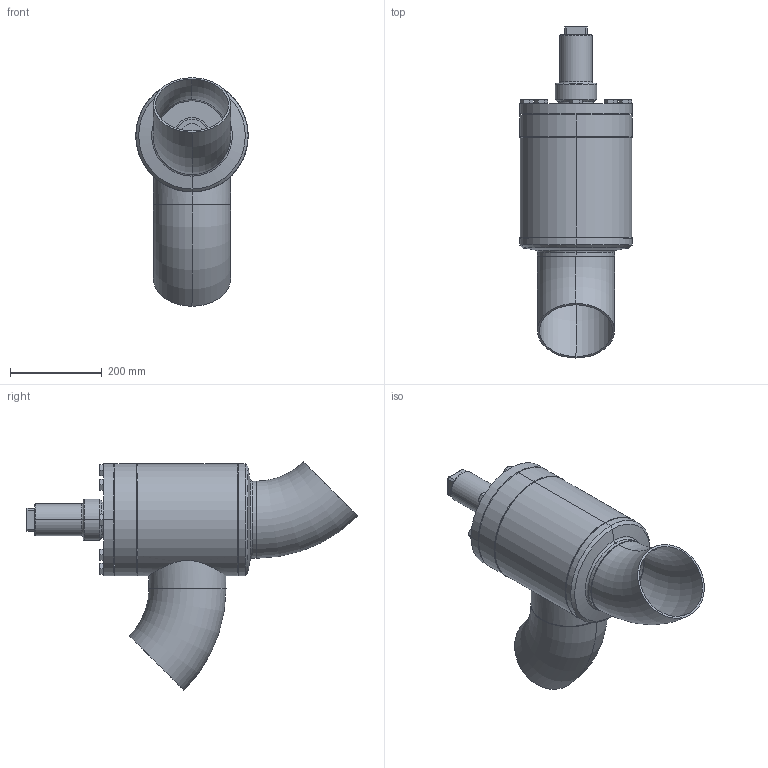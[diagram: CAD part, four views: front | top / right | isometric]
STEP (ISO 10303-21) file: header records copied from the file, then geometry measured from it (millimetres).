
FILE_DESCRIPTION (( 'STEP AP214' ), '1' );
FILE_NAME ('AVB16300D21-DN150_R1_PS40.STEP', '2006-04-27T12:18:45', ( 'Herr Grams' ), ( 'AWP GmbH' ), 'SwSTEP 2.0', 'SolidWorks 2002296', '' );
FILE_SCHEMA (( 'AUTOMOTIVE_DESIGN' ));
Length unit declared in the file: millimetre
Products named in the file (15): AVB16300D21-DN150_R1_PS40; Gehäuse-kpl16300-DN150_R1_Standard; Gehäuse16300-DN150_Standard; Kopfstück16300-DN150_Standard; Boden16300-DN150_Standard; Rohrstutzen-A16300-DN150_R1_Standard; Rohrbogen 45°_Rohrbogen-DN150-45°; bead-DN150-3_Standard; bead-DN150-4_Standard; bead-DN150-1_Standard; bead-DN150-2_Standard; AVB16300E21_Deck+Schr-DN150_Standard; Deckel16300E21-DN150_Standard; Sechskantschraube-DIN933_M16x 45; Kappe16402_DN125-150_Standard
Assembly tree (24 placements, depth 3):
  AVB16300D21-DN150_R1_PS40
    Kappe16402_DN125-150_Standard
    Gehäuse-kpl16300-DN150_R1_Standard
      bead-DN150-4_Standard  x2
      Rohrbogen 45°_Rohrbogen-DN150-45°  x2
      bead-DN150-2_Standard
      Gehäuse16300-DN150_Standard
      Rohrstutzen-A16300-DN150_R1_Standard
      Boden16300-DN150_Standard
      bead-DN150-1_Standard  x2
      Kopfstück16300-DN150_Standard
      bead-DN150-3_Standard
    AVB16300E21_Deck+Schr-DN150_Standard
      Sechskantschraube-DIN933_M16x 45  x8
      Deckel16300E21-DN150_Standard
Bounding box: 245.28 x 724.93 x 499.01 mm (x, y, z)
Volume: 6697416.3 mm3; surface area: 1389678.2 mm2
Topology: 22 solids, 22 shells, 383 faces, 806 edges, 486 vertices
Faces by surface type: cone 126, plane 120, cylinder 93, bspline 24, torus 20
Entity records: 8733 total; most frequent: CARTESIAN_POINT 3687, DIRECTION 920, ORIENTED_EDGE 812, EDGE_CURVE 406, AXIS2_PLACEMENT_3D 403, VERTEX_POINT 252, EDGE_LOOP 238, CIRCLE 200
